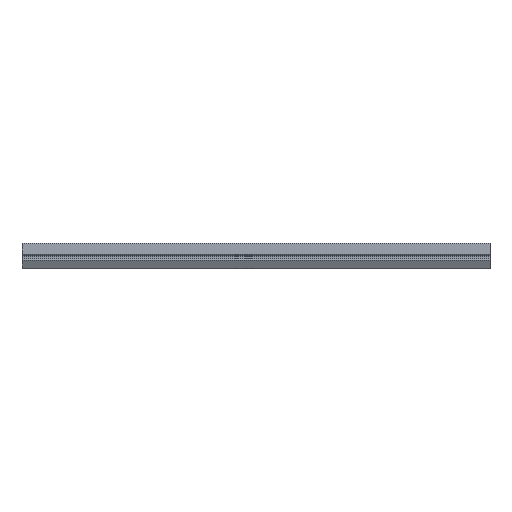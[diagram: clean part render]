
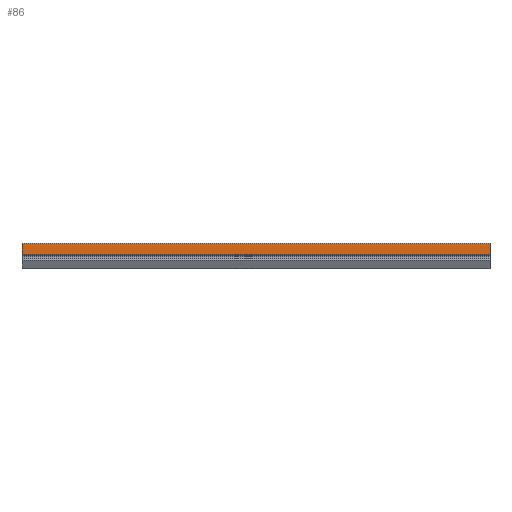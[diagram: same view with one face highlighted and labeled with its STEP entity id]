
A CAD part, left-side view. The second image highlights one B-rep face of the part: STEP entity #86.
In plain terms, the highlighted planar face has unit normal (-1, 0, 0).
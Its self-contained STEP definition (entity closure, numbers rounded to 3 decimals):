
#86=ADVANCED_FACE('',(#209),#210,.F.);
#209=FACE_OUTER_BOUND('',#366,.T.);
#210=PLANE('',#367);
#366=EDGE_LOOP('',(#591,#592,#593,#594));
#367=AXIS2_PLACEMENT_3D('',#595,#596,#597);
#591=ORIENTED_EDGE('',*,*,#1034,.F.);
#592=ORIENTED_EDGE('',*,*,#1055,.F.);
#593=ORIENTED_EDGE('',*,*,#1056,.T.);
#594=ORIENTED_EDGE('',*,*,#1057,.T.);
#595=CARTESIAN_POINT('',(-7.75,-200.0,0.3));
#596=DIRECTION('',(1.0,0.0,0.));
#597=DIRECTION('',(0.,0.0,-1.0));
#1034=EDGE_CURVE('',#1267,#1269,#1270,.T.);
#1055=EDGE_CURVE('',#1306,#1267,#1307,.T.);
#1056=EDGE_CURVE('',#1306,#1308,#1309,.T.);
#1057=EDGE_CURVE('',#1308,#1269,#1310,.T.);
#1267=VERTEX_POINT('',#1588);
#1269=VERTEX_POINT('',#1590);
#1270=LINE('',#1591,#1592);
#1306=VERTEX_POINT('',#1637);
#1307=LINE('',#1638,#1639);
#1308=VERTEX_POINT('',#1640);
#1309=LINE('',#1641,#1642);
#1310=LINE('',#1643,#1644);
#1588=CARTESIAN_POINT('',(-7.75,0.0,0.3));
#1590=CARTESIAN_POINT('',(-7.75,0.0,4.7));
#1591=CARTESIAN_POINT('',(-7.75,0.0,0.3));
#1592=VECTOR('',#1928,1.0);
#1637=CARTESIAN_POINT('',(-7.75,-200.0,0.3));
#1638=CARTESIAN_POINT('',(-7.75,-200.0,0.3));
#1639=VECTOR('',#1968,1.0);
#1640=CARTESIAN_POINT('',(-7.75,-200.0,4.7));
#1641=CARTESIAN_POINT('',(-7.75,-200.0,0.3));
#1642=VECTOR('',#1969,1.0);
#1643=CARTESIAN_POINT('',(-7.75,-200.0,4.7));
#1644=VECTOR('',#1970,1.0);
#1928=DIRECTION('',(0.,0.0,1.0));
#1968=DIRECTION('',(0.0,1.0,0.0));
#1969=DIRECTION('',(0.,0.0,1.0));
#1970=DIRECTION('',(0.0,1.0,0.0));
